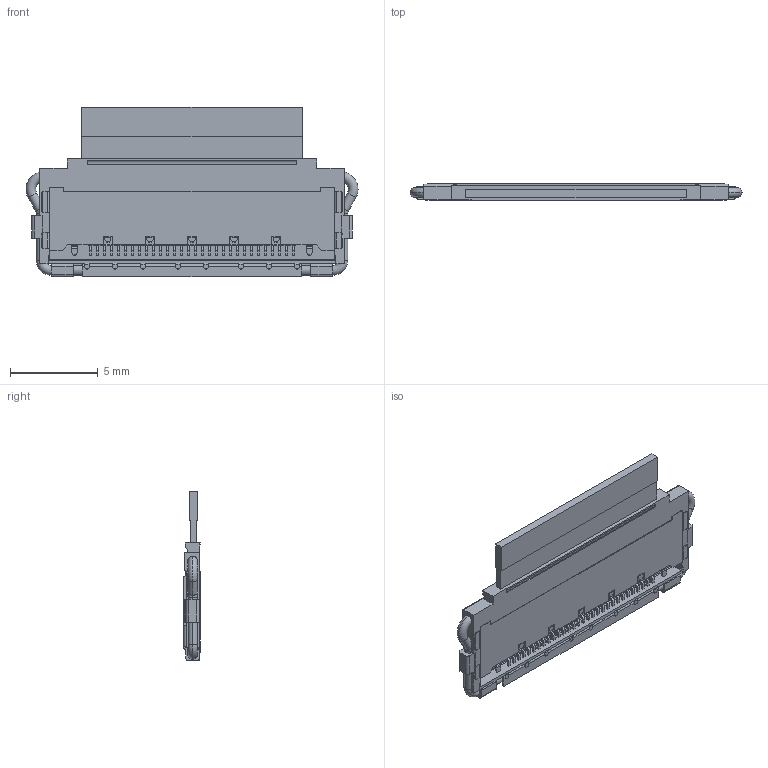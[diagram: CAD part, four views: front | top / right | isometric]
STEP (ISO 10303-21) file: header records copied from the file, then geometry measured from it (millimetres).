
FILE_DESCRIPTION (( 'STEP AP203' ), '1' );
FILE_NAME ('MATING ASS''Y30P.STEP', '2022-11-25T02:12:56', ( '' ), ( '' ), 'SwSTEP 2.0', 'SolidWorks 2020', '' );
FILE_SCHEMA (( 'CONFIG_CONTROL_DESIGN' ));
Length unit declared in the file: millimetre
Products named in the file (1): MATING ASS''Y30P
Bounding box: 18.95 x 0.96 x 9.7 mm (x, y, z)
Volume: 107.9 mm3; surface area: 433.1 mm2
Topology: 1 solids, 1 shells, 1078 faces, 3048 edges, 2016 vertices
Faces by surface type: plane 776, cylinder 290, torus 12
Entity records: 34891 total; most frequent: CARTESIAN_POINT 6279, ORIENTED_EDGE 6096, DIRECTION 5792, EDGE_CURVE 3048, VECTOR 2402, LINE 2402, VERTEX_POINT 2016, AXIS2_PLACEMENT_3D 1695
